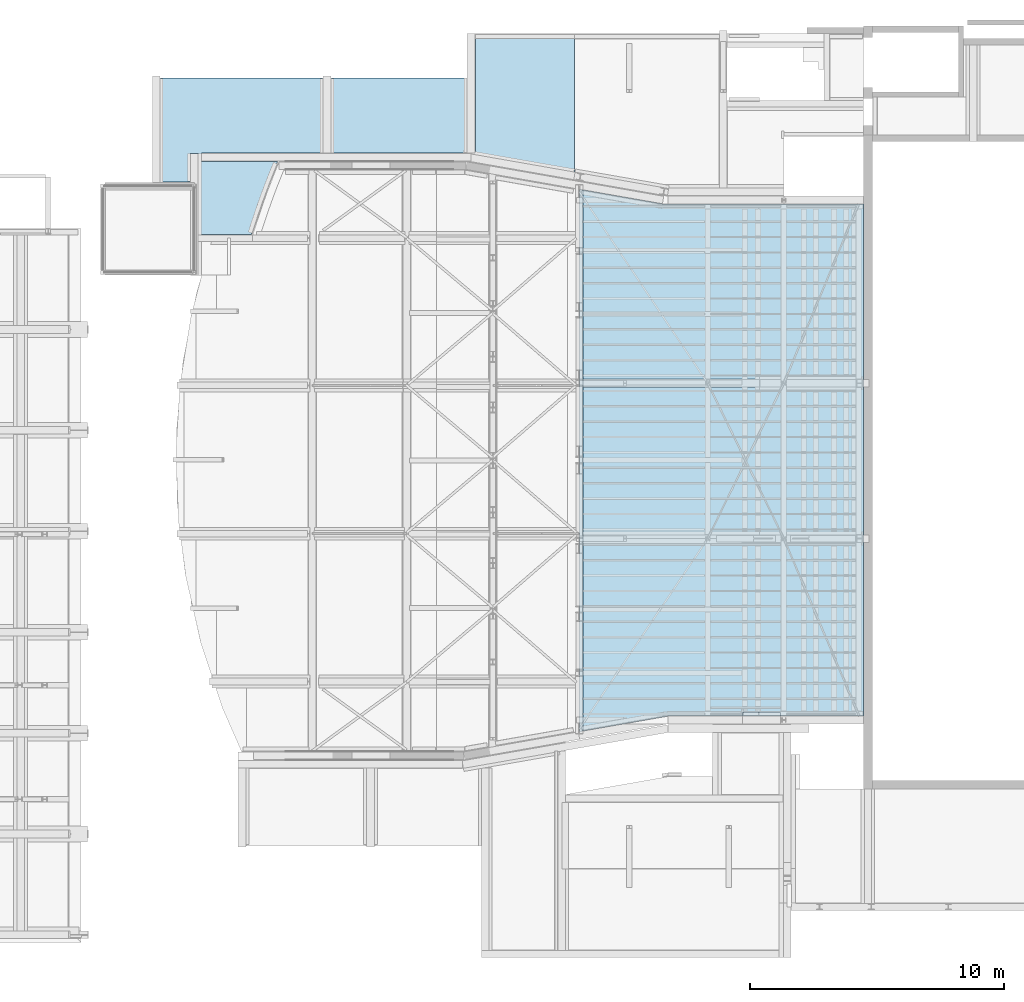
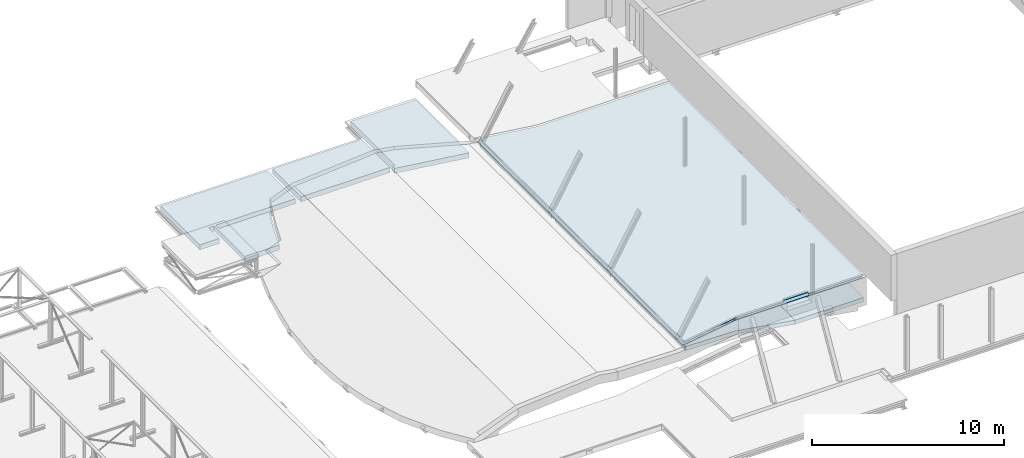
# One storey, part 41 of 50: 5 slabs, 14 openings.
"""IFC2X3 building model written with IfcOpenShell, lengths in millimetres."""

from ifc_helpers import new_model, entity, si_unit, converted_unit, derived_unit, direction, frame, frame_2d, origin, origin_2d_with_axis, place, context, subcontext, project, spatial, polyline, circle_curve, parameter, trimmed, segment, composite_curve, rectangle, outline, extrude, faceted_brep, material, layer, layer_set, layer_usage, type_object, element, save


model = new_model("IFC2X3")

# Units and contexts
model_context = context("Model", 3, precision=0.01, world=origin(), true_north=direction((6.12303176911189e-17, 1.0)))
body_context = subcontext(model_context, "Body", "Model", "MODEL_VIEW")
ifc_project = project(units=[si_unit("LENGTHUNIT", "METRE", prefix="MILLI"), si_unit("AREAUNIT", "SQUARE_METRE", prefix="MILLI"), si_unit("VOLUMEUNIT", "CUBIC_METRE"), converted_unit("PLANEANGLEUNIT", "DEGREE", entity("IfcRatioMeasure", 0.0174532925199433), si_unit("PLANEANGLEUNIT", "RADIAN"), dimensions=[0, 0, 0, 0, 0, 0, 0]), si_unit("MASSUNIT", "GRAM", prefix="KILO"), derived_unit("MASSDENSITYUNIT", [(si_unit("MASSUNIT", "GRAM", prefix="KILO"), 1), (si_unit("LENGTHUNIT", "METRE"), -3)]), derived_unit("MOMENTOFINERTIAUNIT", [(si_unit("LENGTHUNIT", "METRE"), 4)]), si_unit("TIMEUNIT", "SECOND"), si_unit("FREQUENCYUNIT", "HERTZ"), si_unit("THERMODYNAMICTEMPERATUREUNIT", "DEGREE_CELSIUS"), derived_unit("THERMALTRANSMITTANCEUNIT", [(si_unit("MASSUNIT", "GRAM", prefix="KILO"), 1), (si_unit("THERMODYNAMICTEMPERATUREUNIT", "KELVIN"), -1), (si_unit("TIMEUNIT", "SECOND"), -3)]), derived_unit("VOLUMETRICFLOWRATEUNIT", [(si_unit("LENGTHUNIT", "METRE"), 3), (si_unit("TIMEUNIT", "SECOND"), -1)]), si_unit("ELECTRICCURRENTUNIT", "AMPERE"), si_unit("ELECTRICVOLTAGEUNIT", "VOLT"), si_unit("POWERUNIT", "WATT"), si_unit("FORCEUNIT", "NEWTON", prefix="KILO"), si_unit("ILLUMINANCEUNIT", "LUX"), si_unit("LUMINOUSFLUXUNIT", "LUMEN"), si_unit("LUMINOUSINTENSITYUNIT", "CANDELA"), derived_unit("USERDEFINED", [(si_unit("MASSUNIT", "GRAM", prefix="KILO"), -1), (si_unit("LENGTHUNIT", "METRE"), -2), (si_unit("TIMEUNIT", "SECOND"), 3), (si_unit("LUMINOUSFLUXUNIT", "LUMEN"), 1)]), derived_unit("LINEARVELOCITYUNIT", [(si_unit("LENGTHUNIT", "METRE"), 1), (si_unit("TIMEUNIT", "SECOND"), -1)]), si_unit("PRESSUREUNIT", "PASCAL"), derived_unit("USERDEFINED", [(si_unit("LENGTHUNIT", "METRE"), -2), (si_unit("MASSUNIT", "GRAM", prefix="KILO"), 1), (si_unit("TIMEUNIT", "SECOND"), -2)]), derived_unit("LINEARFORCEUNIT", [(si_unit("MASSUNIT", "GRAM", prefix="KILO"), 1), (si_unit("LENGTHUNIT", "METRE"), 1), (si_unit("TIMEUNIT", "SECOND"), -2), (si_unit("LENGTHUNIT", "METRE"), -1)]), derived_unit("PLANARFORCEUNIT", [(si_unit("MASSUNIT", "GRAM", prefix="KILO"), 1), (si_unit("LENGTHUNIT", "METRE"), 1), (si_unit("TIMEUNIT", "SECOND"), -2), (si_unit("LENGTHUNIT", "METRE"), -2)])], contexts=[model_context])

# Site, building, storey
site_placement = place(None, origin())
site = spatial("IfcSite", under=ifc_project, at=site_placement, Name="Theater aan de Parade", CompositionType="ELEMENT")
building_placement = place(site_placement, origin())
building = spatial("IfcBuilding", under=site, at=building_placement, Name="Theater aan de Parade", CompositionType="ELEMENT")
storey_placement = place(building_placement, frame((0.0, 0.0, 15820.0)))
storey = spatial("IfcBuildingStorey", under=building, at=storey_placement, Name="04 vierde verdieping", CompositionType="ELEMENT", Elevation=15820.0)

# Slab, openings
ifc_material_1 = material(Name="00_PBT_MAT_systeemvloer")
ifc_layer_1 = layer(ifc_material_1, 320.0)
ifc_layer_set_1 = layer_set([ifc_layer_1], Name="Floor:28_PBT_FL_kanaalplaat_d=320")
ifc_layer_usage_1 = layer_usage(ifc_layer_set_1, "AXIS3", "POSITIVE", 0.0)
slab_type_1 = type_object("IfcSlabType", Name="Floor:28_PBT_FL_kanaalplaat_d=320", PredefinedType="FLOOR", material=ifc_layer_set_1)
slab_1_placement = place(storey_placement, frame((39632.1672575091, 41348.5633673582, 15.0)))
slab_1 = element("IfcSlab", 1, at=slab_1_placement, inside=storey, type_object=slab_type_1, material=ifc_layer_usage_1, Name="Floor:28_PBT_FL_kanaalplaat_d=320", ObjectType="Floor:28_PBT_FL_kanaalplaat_d=320", PredefinedType="FLOOR", context=body_context, shape_type="SweptSolid", body=[
    extrude(outline(composite_curve([segment(polyline([(6681.0666182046, -2035.06392608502), (8332.75748819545, -2035.06392608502)]), True, "CONTINUOUS"), segment(polyline([(8332.75748819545, -2035.06392608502), (8332.75748819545, 2236.94964392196)]), True, "CONTINUOUS"), segment(polyline([(8332.75748819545, 2236.94964392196), (-4082.19993079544, 2236.94964392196)]), True, "CONTINUOUS"), segment(polyline([(-4082.19993079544, 2236.94964392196), (-4082.19993079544, 3936.50055872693)]), True, "CONTINUOUS"), segment(polyline([(-4082.19993079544, 3936.50055872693), (-8162.75748819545, 3936.50055872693)]), True, "CONTINUOUS"), segment(polyline([(-8162.75748819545, 3936.50055872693), (-8162.75748819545, -1633.03775978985)]), True, "CONTINUOUS"), segment(polyline([(-8162.75748819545, -1633.03775978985), (-3917.19272416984, -890.063926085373)]), True, "CONTINUOUS"), segment(polyline([(-3917.19272416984, -890.063926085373), (3468.08380442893, -890.063926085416)]), True, "CONTINUOUS"), segment(trimmed(circle_curve(frame_2d((-24465.0752542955, -12835.0639260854), x_axis=(-1.0, 0.0)), 30380.0), [parameter(197.03217035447)], [parameter(203.152906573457)], True, "PARAMETER"), False, "CONTINUOUS"), segment(polyline([(4582.4714578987, -3936.50055872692), (6681.06661820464, -3936.50055872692)]), True, "CONTINUOUS"), segment(polyline([(6681.06661820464, -3936.50055872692), (6681.0666182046, -2035.06392608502)]), True, "CONTINUOUS")], self_intersect=False)), frame((8162.75748819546, 3936.50055872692, 320.0), z_axis=(0.0, 0.0, -1.0), x_axis=(-1.0, 0.0, 0.0)), (0.0, 0.0, 1.0), 320.000000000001),
])
opening_1_placement = place(slab_1_placement, origin())
element("IfcOpeningElement", 2, at=opening_1_placement, cuts=slab_1, ObjectType="Opening", context=body_context, shape_type="SweptSolid", body=[
    extrude(rectangle(XDim=6201.99799087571, YDim=340.000000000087, at=origin_2d_with_axis()), frame((22201.7149988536, 4937.4356280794, 1155.0), z_axis=(0.0, 0.0, 1.0), x_axis=(0.0, 1.0, 0.0)), (0.0, 0.0, 1.0), 320.000000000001),
])
opening_2_placement = place(slab_1_placement, origin())
element("IfcOpeningElement", 3, at=opening_2_placement, cuts=slab_1, ObjectType="Opening", context=body_context, shape_type="SweptSolid", body=[
    extrude(rectangle(XDim=260.000000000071, YDim=2635.13487367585, at=origin_2d_with_axis()), frame((26281.7149948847, 6595.86718667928, 1155.0)), (0.0, 0.0, 1.0), 320.000000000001),
])
opening_3_placement = place(slab_1_placement, frame((22351.7149988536, 4893.29974984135, 1150.0)))
element("IfcOpeningElement", 4, at=opening_3_placement, cuts=slab_1, ObjectType="Opening", context=body_context, shape_type="Brep", body=[
    faceted_brep([(100.0, 0.0, 2.0), (100.0, 105.0, 2.0), (0.0, 105.0, 2.0), (0.0, 0.0, 2.0), (0.0, 0.0, 1.0), (0.0, 105.0, 1.0), (100.0, 0.0, 1.0), (100.0, 105.0, 1.0), (4872.37384459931, 405.0, 2.0), (5372.37384459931, 405.0, 2.0), (5372.37384459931, 510.0, 2.0), (4872.37384459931, 510.0, 2.0), (4872.37384459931, 510.0, 1.0), (5372.37384459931, 510.0, 1.0), (4872.37384459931, 405.0, 1.0), (5372.37384459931, 405.0, 1.0), (4972.3738445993, 0.0, 2.0), (5372.37384459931, 0.0, 2.0), (4972.3738445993, 105.0, 2.0), (5372.37384459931, 105.0, 2.0), (4972.3738445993, 105.0, 1.0), (5372.37384459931, 105.0, 1.0), (5372.37384459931, 0.0, 1.0), (4972.3738445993, 0.0, 1.0), (5372.37384459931, 105.0, 0.0), (5372.37384459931, 405.0, 0.0), (5372.37384459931, 405.0, 325.0), (5372.37384459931, 105.0, 325.0), (0.0, 405.0, 0.0), (0.0, 105.0, 0.0), (0.0, 405.0, 325.0), (0.0, 105.0, 325.0)], [[[0, 1, 2]], [[2, 3, 0]], [[4, 5, 6]], [[7, 6, 5]], [[0, 3, 4]], [[4, 6, 0]], [[1, 0, 6]], [[6, 7, 1]], [[8, 9, 10]], [[10, 11, 8]], [[12, 13, 14]], [[15, 14, 13]], [[11, 10, 13]], [[13, 12, 11]], [[8, 11, 12]], [[12, 14, 8]], [[16, 17, 18]], [[19, 18, 17]], [[20, 21, 22]], [[22, 23, 20]], [[16, 18, 20]], [[20, 23, 16]], [[17, 16, 23]], [[23, 22, 17]], [[17, 22, 21]], [[15, 21, 24]], [[24, 25, 15]], [[10, 15, 13]], [[15, 9, 21]], [[26, 27, 19]], [[21, 9, 19]], [[9, 15, 10]], [[19, 9, 26]], [[19, 17, 21]], [[28, 5, 2]], [[5, 28, 29]], [[4, 3, 5]], [[2, 30, 28]], [[30, 2, 31]], [[3, 2, 5]], [[15, 25, 14]], [[26, 9, 8]], [[14, 28, 8]], [[28, 14, 25]], [[8, 30, 26]], [[30, 8, 28]], [[27, 26, 31]], [[30, 31, 26]], [[27, 18, 19]], [[18, 27, 31]], [[24, 21, 20]], [[24, 20, 29]], [[18, 7, 20]], [[1, 31, 2]], [[31, 1, 18]], [[7, 5, 29]], [[7, 29, 20]], [[1, 7, 18]], [[25, 24, 28]], [[29, 28, 24]]]),
])
opening_4_placement = place(slab_1_placement, origin())
element("IfcOpeningElement", 5, at=opening_4_placement, cuts=slab_1, ObjectType="Opening", context=body_context, shape_type="SweptSolid", body=[
    extrude(rectangle(XDim=340.000000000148, YDim=4851.66434997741, at=origin_2d_with_axis()), frame((22158.0566038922, 1686.43663264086, 1150.0), z_axis=(0.0, 0.0, 1.0), x_axis=(0.0, 1.0, 0.0)), (0.0, 0.0, 1.0), 325.0),
])
opening_5_placement = place(slab_1_placement, frame((1056.69086999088, -1623.56337295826, -5.0)))
element("IfcOpeningElement", 6, at=opening_5_placement, cuts=slab_1, ObjectType="Opening", context=body_context, shape_type="Brep", body=[
    faceted_brep([(550.0, 4815.0, 2.0), (550.0, 4815.0, 1.0), (445.0, 4815.0, 1.0), (105.0, 4815.0, 1.0), (445.0, 4815.0, 0.0), (105.0, 4815.0, 0.0), (0.0, 4815.0, 2.0), (0.0, 4815.0, 1.0), (105.0, 4815.0, 2.0), (105.0, 4815.0, 325.0), (445.0, 4815.0, 325.0), (445.0, 4815.0, 2.0), (105.0, 0.0, 0.0), (445.0, 0.0, 1.0), (445.0, 0.0, 2.0), (445.0, 0.0, 0.0), (550.0, 0.0, 1.0), (550.0, 0.0, 2.0), (105.0, 0.0, 325.0), (445.0, 0.0, 325.0), (105.0, 4805.0, 1.0), (105.0, 4805.0, 2.0), (445.0, 4805.0, 2.0), (445.0, 4805.0, 1.0), (445.0, 10.0, 1.0), (445.0, 10.0, 2.0), (550.0, 10.0, 2.0), (550.0, 10.0, 1.0), (0.0, 4805.0, 2.0), (0.0, 4805.0, 1.0), (550.0, 4805.0, 2.0), (550.0, 4805.0, 1.0)], [[[0, 1, 2]], [[3, 2, 4]], [[4, 5, 3]], [[6, 3, 7]], [[3, 8, 2]], [[9, 10, 11]], [[2, 8, 11]], [[8, 3, 6]], [[11, 8, 9]], [[11, 0, 2]], [[12, 13, 14]], [[13, 12, 15]], [[16, 17, 13]], [[14, 18, 12]], [[18, 14, 19]], [[17, 14, 13]], [[3, 5, 20]], [[9, 8, 21]], [[20, 12, 21]], [[12, 20, 5]], [[21, 18, 9]], [[18, 21, 12]], [[10, 9, 18]], [[18, 19, 10]], [[10, 22, 11]], [[22, 10, 19]], [[4, 2, 23]], [[4, 23, 24]], [[22, 24, 23]], [[25, 19, 14]], [[19, 25, 22]], [[24, 13, 15]], [[24, 15, 4]], [[25, 24, 22]], [[5, 4, 15]], [[15, 12, 5]], [[26, 25, 14]], [[14, 17, 26]], [[16, 13, 24]], [[24, 27, 16]], [[21, 8, 6]], [[6, 28, 21]], [[29, 7, 3]], [[3, 20, 29]], [[21, 28, 29]], [[29, 20, 21]], [[30, 0, 11]], [[11, 22, 30]], [[23, 2, 31]], [[1, 31, 2]], [[30, 22, 23]], [[23, 31, 30]], [[28, 6, 7]], [[7, 29, 28]], [[0, 30, 31]], [[31, 1, 0]], [[26, 17, 16]], [[16, 27, 26]], [[25, 26, 27]], [[27, 24, 25]]]),
])
opening_6_placement = place(slab_1_placement, frame((6290.5015528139, 3216.43663264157, -5.0)))
element("IfcOpeningElement", 7, at=opening_6_placement, cuts=slab_1, ObjectType="Opening", context=body_context, shape_type="Brep", body=[
    faceted_brep([(445.0, 0.0, 325.0), (445.0, 3300.0, 325.0), (105.0, 3300.0, 325.0), (105.0, 0.0, 325.0), (550.0, 150.0, 1.0), (550.0, 150.0, 2.0), (550.0, 0.0, 2.0), (550.0, 0.0, 1.0), (105.0, 3300.0, 1.0), (0.0, 3300.0, 1.0), (0.0, 3300.0, 2.0), (105.0, 3300.0, 0.0), (445.0, 3300.0, 1.0), (445.0, 3300.0, 0.0), (550.0, 3300.0, 1.0), (550.0, 3300.0, 2.0), (445.0, 3300.0, 2.0), (105.0, 3300.0, 2.0), (0.0, 0.0, 2.0), (0.0, 0.0, 1.0), (105.0, 0.0, 1.0), (445.0, 0.0, 1.0), (105.0, 0.0, 0.0), (445.0, 0.0, 0.0), (445.0, 0.0, 2.0), (105.0, 0.0, 2.0), (445.0, 2800.0, 1.0), (445.0, 2800.0, 2.0), (445.0, 150.0, 1.0), (445.0, 150.0, 2.0), (105.0, 2900.0, 2.0), (105.0, 2900.0, 1.0), (105.0, 100.0, 1.0), (105.0, 100.0, 2.0), (0.0, 100.0, 2.0), (0.0, 100.0, 1.0), (550.0, 2800.0, 2.0), (550.0, 2800.0, 1.0), (0.0, 2900.0, 2.0), (0.0, 2900.0, 1.0)], [[[0, 1, 2]], [[2, 3, 0]], [[4, 5, 6]], [[6, 7, 4]], [[8, 9, 10]], [[11, 8, 12]], [[12, 13, 11]], [[14, 12, 15]], [[8, 16, 12]], [[17, 2, 1]], [[17, 16, 8]], [[15, 12, 16]], [[1, 16, 17]], [[8, 10, 17]], [[18, 19, 20]], [[21, 20, 22]], [[22, 23, 21]], [[6, 21, 7]], [[21, 24, 20]], [[0, 3, 25]], [[20, 24, 25]], [[24, 21, 6]], [[25, 24, 0]], [[25, 18, 20]], [[12, 26, 13]], [[23, 13, 26]], [[27, 16, 1]], [[0, 27, 1]], [[27, 28, 26]], [[21, 23, 28]], [[26, 28, 23]], [[0, 24, 29]], [[27, 0, 29]], [[27, 29, 28]], [[17, 30, 2]], [[3, 2, 30]], [[31, 8, 11]], [[22, 31, 11]], [[31, 32, 30]], [[25, 3, 33]], [[30, 33, 3]], [[22, 20, 32]], [[31, 22, 32]], [[30, 32, 33]], [[22, 11, 13]], [[13, 23, 22]], [[5, 29, 24]], [[24, 6, 5]], [[28, 4, 7]], [[7, 21, 28]], [[28, 29, 5]], [[5, 4, 28]], [[25, 33, 34]], [[34, 18, 25]], [[32, 20, 19]], [[19, 35, 32]], [[19, 18, 34]], [[34, 35, 19]], [[35, 34, 33]], [[33, 32, 35]], [[15, 16, 27]], [[27, 36, 15]], [[12, 14, 37]], [[37, 26, 12]], [[14, 15, 36]], [[36, 37, 14]], [[37, 36, 27]], [[27, 26, 37]], [[30, 10, 38]], [[10, 30, 17]], [[39, 8, 31]], [[8, 39, 9]], [[31, 30, 38]], [[38, 39, 31]], [[39, 38, 10]], [[10, 9, 39]]]),
])
opening_7_placement = place(slab_1_placement, origin())
element("IfcOpeningElement", 8, at=opening_7_placement, cuts=slab_1, ObjectType="Opening", context=body_context, shape_type="SweptSolid", body=[
    extrude(rectangle(XDim=340.000000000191, YDim=4696.99799087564, at=origin_2d_with_axis()), frame((12244.957418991, 5564.9356280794, -5.0), z_axis=(0.0, 0.0, 1.0), x_axis=(-1.0, 0.0, 0.0)), (0.0, 0.0, 1.0), 335.0),
])
opening_8_placement = place(slab_1_placement, origin())
element("IfcOpeningElement", 9, at=opening_8_placement, cuts=slab_1, ObjectType="Opening", context=body_context, shape_type="SweptSolid", body=[
    extrude(rectangle(XDim=10632.3000471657, YDim=339.999999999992, at=origin_2d_with_axis()), frame((6935.54089357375, 3046.43663264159, 0.0), z_axis=(0.0, 0.0, 1.0), x_axis=(-1.0, 0.0, 0.0)), (0.0, 0.0, 1.0), 319.999999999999),
])
opening_9_placement = place(slab_1_placement, origin())
element("IfcOpeningElement", 10, at=opening_9_placement, cuts=slab_1, ObjectType="Opening", context=body_context, shape_type="SweptSolid", body=[
    extrude(rectangle(XDim=339.999999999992, YDim=3524.499997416, at=origin_2d_with_axis()), frame((-430.559128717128, 1901.43663264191, 0.0), z_axis=(0.0, 0.0, 1.0), x_axis=(0.0, 1.0, 0.0)), (0.0, 0.0, 1.0), 319.999999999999),
])
opening_10_placement = place(slab_1_placement, origin())
element("IfcOpeningElement", 11, at=opening_10_placement, cuts=slab_1, ObjectType="Opening", context=body_context, shape_type="SweptSolid", body=[
    extrude(rectangle(XDim=4500.00000000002, YDim=340.000000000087, at=origin_2d_with_axis()), frame((-170.0, 4301.43663264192, -5.0), z_axis=(0.0, 0.0, 1.0), x_axis=(0.0, -1.0, 0.0)), (0.0, 0.0, 1.0), 335.0),
])

ifc_layer_2 = layer(ifc_material_1, 260.0)
ifc_layer_set_2 = layer_set([ifc_layer_2], Name="Floor:28_PBT_FL_kanaalplaat_d=260")
ifc_layer_usage_2 = layer_usage(ifc_layer_set_2, "AXIS3", "POSITIVE", 0.0)
slab_type_2 = type_object("IfcSlabType", Name="Floor:28_PBT_FL_kanaalplaat_d=260", PredefinedType="FLOOR", material=ifc_layer_set_2)
slab_2_placement = place(storey_placement, frame((56293.3747485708, 21754.0905809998, -196.884047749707)))
slab_2 = element("IfcSlab", 12, at=slab_2_placement, inside=storey, type_object=slab_type_2, material=ifc_layer_usage_2, Name="Floor:28_PBT_FL_kanaalplaat_d=260", ObjectType="Floor:28_PBT_FL_kanaalplaat_d=260", PredefinedType="FLOOR", context=body_context, shape_type="SweptSolid", body=[
    extrude(outline(polyline([(-6489.90151614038, -11455.909419), (-3100.11374997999, -10870.0), (554.511862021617, -10870.0), (554.511862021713, 9340.0), (-3302.60677700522, 9340.0), (-6489.90151614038, 9890.90941900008), (-6489.90151614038, -11455.909419)])), frame((6410.0, 11455.909419, 349.98573350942), z_axis=(0.156434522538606, 0.0, 0.987688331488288), x_axis=(0.987688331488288, 0.0, -0.156434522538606)), (0.156434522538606, 0.0, -0.987688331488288), 263.240935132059),
])
opening_11_placement = place(slab_2_placement, frame((-35.2006716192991, 13448.4094145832, -50.0380373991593)))
element("IfcOpeningElement", 13, at=opening_11_placement, cuts=slab_2, ObjectType="Opening", context=body_context, shape_type="Brep", body=[
    faceted_brep([(7289.45282252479, 0.0, 1.97537668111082), (7289.29638805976, 0.0, 0.987688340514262), (7289.29638805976, 100.0, 0.987688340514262), (7289.29638805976, 440.0, 0.987688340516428), (7289.13995359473, 100.0, 0.0), (7289.13995359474, 440.0, 0.0), (7289.45282252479, 540.0, 1.97537668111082), (7289.29638805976, 540.0, 0.987688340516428), (7289.45282252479, 440.0, 1.97537668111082), (7330.5950868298, 440.0, 261.737410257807), (7330.5950868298, 100.0, 261.737410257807), (7289.45282252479, 100.0, 1.97537668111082), (0.156434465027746, 100.0, 1155.4740403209), (0.156434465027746, 0.0, 1155.4740403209), (0.312868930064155, 0.0, 1156.46172866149), (0.0, 100.0, 1154.48635198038), (0.156434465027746, 440.0, 1155.4740403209), (0.0, 440.0, 1154.48635198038), (0.156434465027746, 540.0, 1155.4740403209), (0.312868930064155, 540.0, 1156.46172866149), (0.312868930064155, 440.0, 1156.46172866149), (0.312868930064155, 100.0, 1156.46172866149), (41.4551332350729, 100.0, 1416.22376223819), (41.4551332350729, 440.0, 1416.22376223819), (6795.45221776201, 440.0, 79.2049208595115), (6795.60865222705, 440.0, 80.1926092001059), (148.309685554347, 440.0, 1132.0088705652), (148.466120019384, 440.0, 1132.99655890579), (6894.3774862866, 100.0, 64.5491626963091), (6894.22105182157, 100.0, 63.5614743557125), (98.9252685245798, 100.0, 1139.8305938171), (99.0817029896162, 100.0, 1140.81828215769), (148.466120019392, 540.0, 1132.99655890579), (148.309685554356, 540.0, 1132.0088705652), (99.0817029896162, 0.0, 1140.81828215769), (98.9252685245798, 0.0, 1139.8305938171), (6795.60865222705, 540.0, 80.1926092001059), (6795.45221776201, 540.0, 79.2049208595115), (6894.37748628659, 0.0, 64.5491626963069), (6894.22105182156, 0.0, 63.5614743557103)], [[[0, 1, 2]], [[3, 2, 4]], [[4, 5, 3]], [[6, 3, 7]], [[3, 8, 2]], [[9, 10, 11]], [[2, 8, 11]], [[8, 3, 6]], [[11, 8, 9]], [[11, 0, 2]], [[12, 13, 14]], [[15, 12, 16]], [[16, 17, 15]], [[18, 16, 19]], [[12, 20, 16]], [[21, 22, 23]], [[21, 20, 12]], [[19, 16, 20]], [[23, 20, 21]], [[12, 14, 21]], [[5, 24, 3]], [[24, 5, 17]], [[9, 8, 25]], [[9, 25, 23]], [[24, 26, 25]], [[26, 17, 16]], [[17, 26, 24]], [[27, 20, 23]], [[27, 23, 25]], [[26, 27, 25]], [[10, 9, 22]], [[23, 22, 9]], [[10, 28, 11]], [[28, 10, 22]], [[4, 2, 29]], [[4, 29, 15]], [[28, 30, 29]], [[31, 22, 21]], [[22, 31, 28]], [[30, 12, 15]], [[30, 15, 29]], [[31, 30, 28]], [[5, 4, 17]], [[15, 17, 4]], [[20, 27, 32]], [[32, 19, 20]], [[18, 33, 16]], [[26, 16, 33]], [[32, 27, 26]], [[26, 33, 32]], [[19, 32, 33]], [[33, 18, 19]], [[34, 31, 21]], [[21, 14, 34]], [[13, 12, 30]], [[30, 35, 13]], [[34, 14, 13]], [[13, 35, 34]], [[31, 34, 35]], [[35, 30, 31]], [[25, 8, 6]], [[6, 36, 25]], [[37, 7, 3]], [[3, 24, 37]], [[36, 6, 7]], [[7, 37, 36]], [[25, 36, 37]], [[37, 24, 25]], [[38, 0, 11]], [[11, 28, 38]], [[29, 2, 1]], [[1, 39, 29]], [[38, 28, 29]], [[29, 39, 38]], [[0, 38, 39]], [[39, 1, 0]]]),
])
opening_12_placement = place(slab_2_placement, frame((-35.2006716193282, 7322.82596868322, -50.0380373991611)))
element("IfcOpeningElement", 14, at=opening_12_placement, cuts=slab_2, ObjectType="Opening", context=body_context, shape_type="Brep", body=[
    faceted_brep([(7289.45282252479, 0.0, 1.97537668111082), (7289.29638805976, 0.0, 0.987688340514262), (7289.29638805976, 100.0, 0.987688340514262), (7289.29638805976, 440.0, 0.987688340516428), (7289.13995359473, 100.0, 0.0), (7289.13995359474, 440.0, 0.0), (7289.45282252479, 540.0, 1.97537668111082), (7289.29638805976, 540.0, 0.987688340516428), (7289.45282252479, 440.0, 1.97537668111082), (7330.5950868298, 440.0, 261.737410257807), (7330.5950868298, 100.0, 261.737410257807), (7289.45282252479, 100.0, 1.97537668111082), (0.156434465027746, 100.0, 1155.4740403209), (0.156434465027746, 0.0, 1155.4740403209), (0.312868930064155, 0.0, 1156.46172866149), (0.0, 100.0, 1154.48635198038), (0.156434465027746, 440.0, 1155.4740403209), (0.0, 440.0, 1154.48635198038), (0.156434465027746, 540.0, 1155.4740403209), (0.312868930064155, 540.0, 1156.46172866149), (0.312868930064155, 440.0, 1156.46172866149), (0.312868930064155, 100.0, 1156.46172866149), (41.4551332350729, 100.0, 1416.22376223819), (41.4551332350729, 440.0, 1416.22376223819), (6795.45221776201, 440.0, 79.2049208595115), (6795.60865222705, 440.0, 80.1926092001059), (148.309685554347, 440.0, 1132.0088705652), (148.466120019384, 440.0, 1132.99655890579), (6894.3774862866, 100.0, 64.5491626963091), (6894.22105182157, 100.0, 63.5614743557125), (98.9252685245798, 100.0, 1139.8305938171), (99.0817029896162, 100.0, 1140.81828215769), (148.466120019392, 540.0, 1132.99655890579), (148.309685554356, 540.0, 1132.0088705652), (99.0817029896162, 0.0, 1140.81828215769), (98.9252685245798, 0.0, 1139.8305938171), (6795.60865222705, 540.0, 80.1926092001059), (6795.45221776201, 540.0, 79.2049208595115), (6894.37748628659, 0.0, 64.5491626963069), (6894.22105182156, 0.0, 63.5614743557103)], [[[0, 1, 2]], [[3, 2, 4]], [[4, 5, 3]], [[6, 3, 7]], [[3, 8, 2]], [[9, 10, 11]], [[2, 8, 11]], [[8, 3, 6]], [[11, 8, 9]], [[11, 0, 2]], [[12, 13, 14]], [[15, 12, 16]], [[16, 17, 15]], [[18, 16, 19]], [[12, 20, 16]], [[21, 22, 23]], [[21, 20, 12]], [[19, 16, 20]], [[23, 20, 21]], [[12, 14, 21]], [[5, 24, 3]], [[24, 5, 17]], [[9, 8, 25]], [[9, 25, 23]], [[24, 26, 25]], [[26, 17, 16]], [[17, 26, 24]], [[27, 20, 23]], [[27, 23, 25]], [[26, 27, 25]], [[10, 9, 22]], [[23, 22, 9]], [[10, 28, 11]], [[28, 10, 22]], [[4, 2, 29]], [[4, 29, 15]], [[28, 30, 29]], [[31, 22, 21]], [[22, 31, 28]], [[30, 12, 15]], [[30, 15, 29]], [[31, 30, 28]], [[5, 4, 17]], [[15, 17, 4]], [[20, 27, 32]], [[32, 19, 20]], [[18, 33, 16]], [[26, 16, 33]], [[32, 27, 26]], [[26, 33, 32]], [[19, 32, 33]], [[33, 18, 19]], [[34, 31, 21]], [[21, 14, 34]], [[13, 12, 30]], [[30, 35, 13]], [[34, 14, 13]], [[13, 35, 34]], [[31, 34, 35]], [[35, 30, 31]], [[25, 8, 6]], [[6, 36, 25]], [[37, 7, 3]], [[3, 24, 37]], [[36, 6, 7]], [[7, 37, 36]], [[25, 36, 37]], [[37, 24, 25]], [[38, 0, 11]], [[11, 28, 38]], [[29, 2, 1]], [[1, 39, 29]], [[38, 28, 29]], [[29, 39, 38]], [[0, 38, 39]], [[39, 1, 0]]]),
])

ifc_layer_usage_3 = layer_usage(ifc_layer_set_2, "AXIS3", "POSITIVE", 0.0)
slab_type_3 = type_object("IfcSlabType", Name="Floor:28_PBT_FL_kanaalplaat_d=260", PredefinedType="FLOOR", material=ifc_layer_set_2)
slab_3_placement = place(storey_placement, frame((63243.3747485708, 22340.0, -195.0)))
slab_3 = element("IfcSlab", 15, at=slab_3_placement, inside=storey, type_object=slab_type_3, material=ifc_layer_usage_3, Name="Floor:28_PBT_FL_kanaalplaat_d=260", ObjectType="Floor:28_PBT_FL_kanaalplaat_d=260", PredefinedType="FLOOR", context=body_context, shape_type="SweptSolid", body=[
    extrude(rectangle(XDim=4112.8813523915, YDim=20209.9999999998, at=frame_2d((0.0, 0.0), x_axis=(-1.0, 0.0))), frame((2056.44067619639, 10105.0, 260.0), z_axis=(0.0, 0.0, -1.0), x_axis=(-1.0, 0.0, 0.0)), (0.0, 0.0, 1.0), 259.999999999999),
])
opening_13_placement = place(slab_3_placement, frame((343.04789823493, 6736.91654968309, -5.0)))
element("IfcOpeningElement", 16, at=opening_13_placement, cuts=slab_3, ObjectType="Opening", context=body_context, shape_type="Brep", body=[
    faceted_brep([(3744.83345415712, 0.0, 2.0), (3744.83345415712, 0.0, 1.0), (3744.83345415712, 100.0, 1.0), (3744.83345415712, 440.0, 1.0), (3744.83345415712, 100.0, 0.0), (3744.83345415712, 440.0, 0.0), (3744.83345415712, 540.0, 2.0), (3744.83345415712, 540.0, 1.0), (3744.83345415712, 440.0, 2.0), (3744.83345415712, 440.0, 265.0), (3744.83345415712, 100.0, 265.0), (3744.83345415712, 100.0, 2.0), (0.0, 100.0, 1.0), (0.0, 0.0, 1.0), (0.0, 0.0, 2.0), (0.0, 100.0, 0.0), (0.0, 440.0, 1.0), (0.0, 440.0, 0.0), (0.0, 540.0, 1.0), (0.0, 540.0, 2.0), (0.0, 440.0, 2.0), (0.0, 100.0, 2.0), (0.0, 100.0, 265.0), (0.0, 440.0, 265.0), (3244.83345415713, 440.0, 1.0), (3244.83345415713, 440.0, 2.0), (150.0, 440.0, 1.0), (150.0, 440.0, 2.0), (3344.83345415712, 100.0, 2.0), (3344.83345415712, 100.0, 1.0), (100.0, 100.0, 1.0), (100.0, 100.0, 2.0), (150.0, 540.0, 2.0), (150.0, 540.0, 1.0), (100.0, 0.0, 2.0), (100.0, 0.0, 1.0), (3244.83345415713, 540.0, 2.0), (3244.83345415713, 540.0, 1.0), (3344.83345415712, 0.0, 2.0), (3344.83345415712, 0.0, 1.0)], [[[0, 1, 2]], [[3, 2, 4]], [[4, 5, 3]], [[6, 3, 7]], [[3, 8, 2]], [[9, 10, 11]], [[2, 8, 11]], [[8, 3, 6]], [[11, 8, 9]], [[11, 0, 2]], [[12, 13, 14]], [[15, 12, 16]], [[16, 17, 15]], [[18, 16, 19]], [[12, 20, 16]], [[21, 22, 23]], [[21, 20, 12]], [[19, 16, 20]], [[23, 20, 21]], [[12, 14, 21]], [[5, 24, 3]], [[24, 5, 17]], [[9, 8, 25]], [[9, 25, 23]], [[24, 26, 25]], [[26, 17, 16]], [[17, 26, 24]], [[27, 20, 23]], [[27, 23, 25]], [[26, 27, 25]], [[10, 9, 22]], [[23, 22, 9]], [[10, 28, 11]], [[28, 10, 22]], [[4, 2, 29]], [[4, 29, 15]], [[28, 30, 29]], [[31, 22, 21]], [[22, 31, 28]], [[30, 12, 15]], [[30, 15, 29]], [[31, 30, 28]], [[5, 4, 17]], [[15, 17, 4]], [[20, 27, 32]], [[32, 19, 20]], [[18, 33, 16]], [[26, 16, 33]], [[32, 27, 26]], [[26, 33, 32]], [[19, 32, 33]], [[33, 18, 19]], [[34, 31, 21]], [[21, 14, 34]], [[13, 12, 30]], [[30, 35, 13]], [[34, 14, 13]], [[13, 35, 34]], [[31, 34, 35]], [[35, 30, 31]], [[25, 8, 36]], [[6, 36, 8]], [[37, 7, 3]], [[3, 24, 37]], [[36, 6, 7]], [[7, 37, 36]], [[25, 36, 37]], [[37, 24, 25]], [[38, 0, 11]], [[11, 28, 38]], [[29, 2, 39]], [[1, 39, 2]], [[38, 28, 29]], [[29, 39, 38]], [[0, 38, 39]], [[39, 1, 0]]]),
])
opening_14_placement = place(slab_3_placement, frame((343.047898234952, 12862.4999955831, -5.0)))
element("IfcOpeningElement", 17, at=opening_14_placement, cuts=slab_3, ObjectType="Opening", context=body_context, shape_type="Brep", body=[
    faceted_brep([(3744.83345415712, 0.0, 2.0), (3744.83345415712, 0.0, 1.0), (3744.83345415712, 100.0, 1.0), (3744.83345415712, 440.0, 1.0), (3744.83345415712, 100.0, 0.0), (3744.83345415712, 440.0, 0.0), (3744.83345415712, 540.0, 2.0), (3744.83345415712, 540.0, 1.0), (3744.83345415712, 440.0, 2.0), (3744.83345415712, 440.0, 265.0), (3744.83345415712, 100.0, 265.0), (3744.83345415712, 100.0, 2.0), (0.0, 100.0, 1.0), (0.0, 0.0, 1.0), (0.0, 0.0, 2.0), (0.0, 100.0, 0.0), (0.0, 440.0, 1.0), (0.0, 440.0, 0.0), (0.0, 540.0, 1.0), (0.0, 540.0, 2.0), (0.0, 440.0, 2.0), (0.0, 100.0, 2.0), (0.0, 100.0, 265.0), (0.0, 440.0, 265.0), (3244.83345415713, 440.0, 1.0), (3244.83345415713, 440.0, 2.0), (150.0, 440.0, 1.0), (150.0, 440.0, 2.0), (3344.83345415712, 100.0, 2.0), (3344.83345415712, 100.0, 1.0), (100.0, 100.0, 1.0), (100.0, 100.0, 2.0), (150.0, 540.0, 2.0), (150.0, 540.0, 1.0), (100.0, 0.0, 2.0), (100.0, 0.0, 1.0), (3244.83345415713, 540.0, 2.0), (3244.83345415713, 540.0, 1.0), (3344.83345415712, 0.0, 2.0), (3344.83345415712, 0.0, 1.0)], [[[0, 1, 2]], [[3, 2, 4]], [[4, 5, 3]], [[6, 3, 7]], [[3, 8, 2]], [[9, 10, 11]], [[2, 8, 11]], [[8, 3, 6]], [[11, 8, 9]], [[11, 0, 2]], [[12, 13, 14]], [[15, 12, 16]], [[16, 17, 15]], [[18, 16, 19]], [[12, 20, 16]], [[21, 22, 23]], [[21, 20, 12]], [[19, 16, 20]], [[23, 20, 21]], [[12, 14, 21]], [[5, 24, 3]], [[24, 5, 17]], [[9, 8, 25]], [[9, 25, 23]], [[24, 26, 25]], [[26, 17, 16]], [[17, 26, 24]], [[27, 20, 23]], [[27, 23, 25]], [[26, 27, 25]], [[10, 9, 22]], [[23, 22, 9]], [[10, 28, 11]], [[28, 10, 22]], [[4, 2, 29]], [[4, 29, 15]], [[28, 30, 29]], [[31, 22, 21]], [[22, 31, 28]], [[30, 12, 15]], [[30, 15, 29]], [[31, 30, 28]], [[5, 4, 17]], [[15, 17, 4]], [[20, 27, 32]], [[32, 19, 20]], [[18, 33, 16]], [[26, 16, 33]], [[32, 27, 26]], [[26, 33, 32]], [[19, 32, 33]], [[33, 18, 19]], [[34, 31, 21]], [[21, 14, 34]], [[13, 12, 30]], [[30, 35, 13]], [[34, 14, 13]], [[13, 35, 34]], [[31, 34, 35]], [[35, 30, 31]], [[25, 8, 36]], [[6, 36, 8]], [[37, 7, 3]], [[3, 24, 37]], [[36, 6, 7]], [[7, 37, 36]], [[25, 36, 37]], [[37, 24, 25]], [[38, 0, 11]], [[11, 28, 38]], [[29, 2, 39]], [[1, 39, 2]], [[38, 28, 29]], [[29, 39, 38]], [[0, 38, 39]], [[39, 1, 0]]]),
])

# Slabs
ifc_material_2 = material(Name="00_PBT_MAT_hout")
ifc_layer_3 = layer(ifc_material_2, 24.0)
ifc_layer_set_3 = layer_set([ifc_layer_3], Name="Floor:28_PBT_FL_hout_d=24")
ifc_layer_usage_4 = layer_usage(ifc_layer_set_3, "AXIS3", "POSITIVE", 0.0)
slab_type_4 = type_object("IfcSlabType", Name="Floor:28_PBT_FL_hout_d=24", PredefinedType="FLOOR", material=ifc_layer_set_3)
slab_4_placement = place(storey_placement, origin())
element("IfcSlab", 18, at=slab_4_placement, inside=storey, type_object=slab_type_4, material=ifc_layer_usage_4, Name="Floor:28_PBT_FL_hout_d=24", ObjectType="Floor:28_PBT_FL_hout_d=24", PredefinedType="FLOOR", context=body_context, shape_type="SweptSolid", body=[
    extrude(outline(polyline([(-10709.0568566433, -4861.66704308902), (10685.7235233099, -4861.66704308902), (10110.8333333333, -1576.58024322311), (10110.8333333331, 6338.24728631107), (-10099.1666666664, 6338.24728631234), (-10099.1666666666, -1376.58024322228), (-10709.0568566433, -4861.66704308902)])), frame((61018.0088146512, 32439.1666666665, 1346.0), z_axis=(0.0, 0.0, -1.0), x_axis=(0.0, 1.0, 0.0)), (0.0, 0.0, 1.0), 24.000000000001),
])
ifc_layer_usage_5 = layer_usage(ifc_layer_set_3, "AXIS3", "POSITIVE", 0.0)
slab_type_5 = type_object("IfcSlabType", Name="Floor:28_PBT_FL_hout_d=24", PredefinedType="FLOOR", material=ifc_layer_set_3)
slab_5_placement = place(storey_placement, origin())
element("IfcSlab", 19, at=slab_5_placement, inside=storey, type_object=slab_type_5, material=ifc_layer_usage_5, Name="Floor:28_PBT_FL_hout_d=24", ObjectType="Floor:28_PBT_FL_hout_d=24", PredefinedType="FLOOR", context=body_context, shape_type="SweptSolid", body=[
    extrude(outline(polyline([(-6674.40941900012, -5677.25955018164), (14672.409419, -5677.25955018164), (14121.5, -2529.20572732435), (14121.4999999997, 5385.62180220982), (-6088.49999999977, 5385.62180221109), (-6088.49999999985, 2105.42173764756), (-5943.50000000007, 2105.42173764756), (-5943.50000000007, 615.42173764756), (-6088.49999999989, 615.42173764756), (-6088.49999999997, -2329.20572732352), (-6674.40941900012, -5677.25955018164)])), frame((61970.6342987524, 28428.4999999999, 1470.0), z_axis=(0.0, 0.0, -1.0), x_axis=(0.0, 1.0, 0.0)), (0.0, 0.0, 1.0), 24.000000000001),
])

save(model, "model.ifc")
